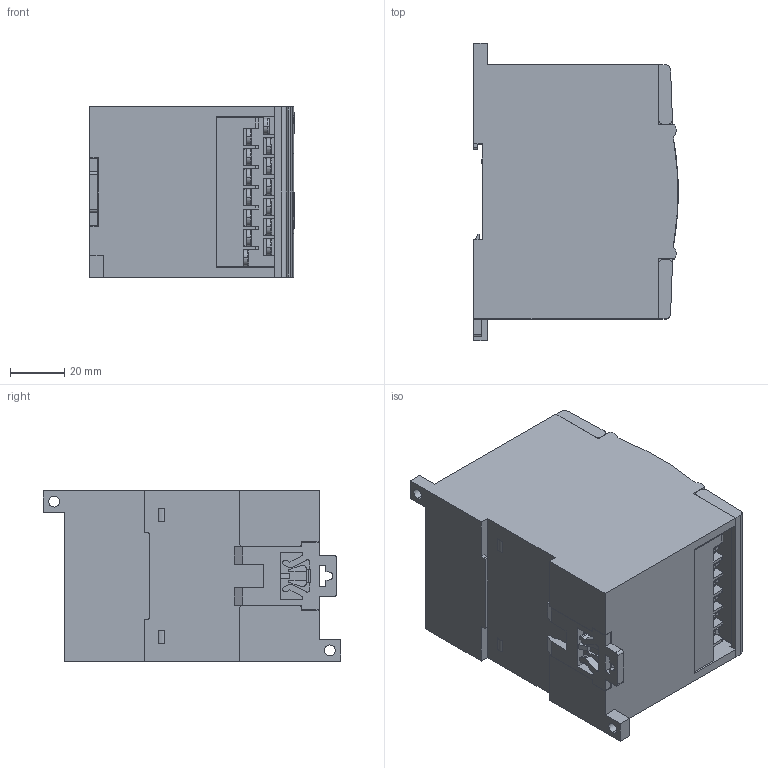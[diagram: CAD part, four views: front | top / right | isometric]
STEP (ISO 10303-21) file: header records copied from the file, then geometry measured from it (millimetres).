
FILE_DESCRIPTION (( 'STEP AP214' ), '1' );
FILE_NAME ('3D Ìîäåëü ÌÓ110-224.8Ð.STEP', '2015-08-28T11:06:39', ( 'adm' ), ( 'owen' ), 'SwSTEP 2.0', 'SolidWorks 2013', '' );
FILE_SCHEMA (( 'AUTOMOTIVE_DESIGN' ));
Length unit declared in the file: millimetre
Products named in the file (6): Êîðïóñ ÌÓ110-224.8Ð; MX110_003FA01M; 3D Ìîäåëü ÌÓ110-224.8Ð; 婰膲僗闉; Ðîçåòêà ÌÕ-12; Êðûøêà ïðîçðà÷íàÿ ÌÓ110
Assembly tree (7 placements, depth 2):
  3D Ìîäåëü ÌÓ110-224.8Ð
    Ðîçåòêà ÌÕ-12  x2
    Êðûøêà ïðîçðà÷íàÿ ÌÓ110  x2
    婰膲僗闉
    MX110_003FA01M
    Êîðïóñ ÌÓ110-224.8Ð
Bounding box: 75.62 x 110 x 63 mm (x, y, z)
Volume: 413223.6 mm3; surface area: 63227.1 mm2
Topology: 36 solids, 36 shells, 1727 faces, 4506 edges, 2969 vertices
Faces by surface type: plane 1069, bspline 310, cylinder 232, cone 112, torus 4
Entity records: 64696 total; most frequent: CARTESIAN_POINT 23079, ORIENTED_EDGE 6764, DIRECTION 5040, EDGE_CURVE 3382, VERTEX_POINT 2237, LINE 1742, VECTOR 1742, AXIS2_PLACEMENT_3D 1649
